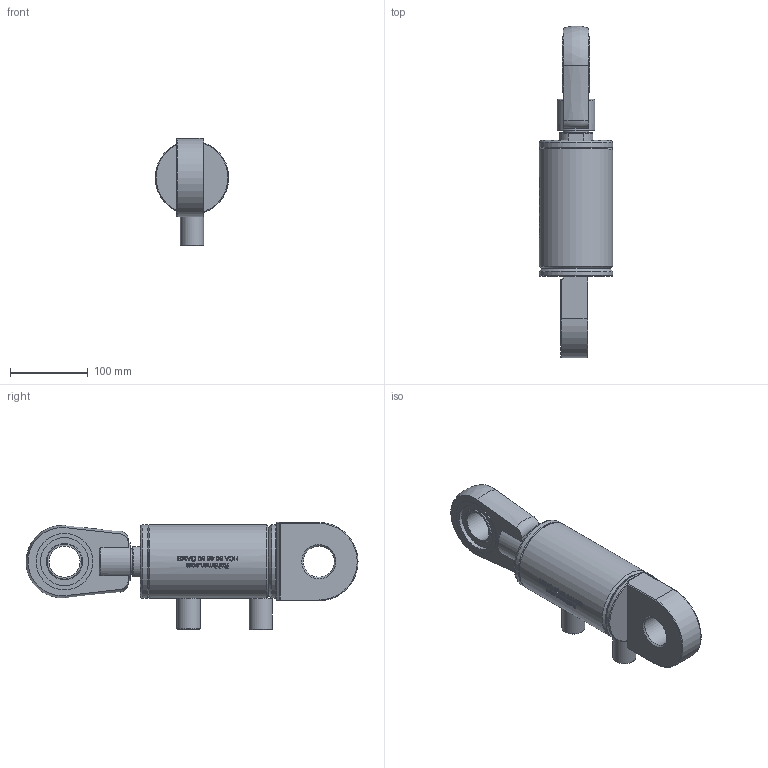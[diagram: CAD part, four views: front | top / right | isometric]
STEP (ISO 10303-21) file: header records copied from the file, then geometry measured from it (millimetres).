
FILE_DESCRIPTION(/* description */ (''),/* implementation_level */ '2;1');
FILE_NAME(/* name */ 'HC_A_80_45_50_AMB_WEB.step',/* time_stamp */ '2023-07-25T14:20:12+03:00',/* author */ (''),/* organization */ (''),/* preprocessor_version */ 'ST-DEVELOPER v20',/* originating_system */ 'Autodesk Translation Framework v12.9.0.99',/* authorisation */ '');
FILE_SCHEMA (('AUTOMOTIVE_DESIGN { 1 0 10303 214 3 1 1 }'));
Length unit declared in the file: millimetre
Products named in the file (16): HC_A_80_45_50_ÖAMB_WEB; Manşon_1_2; RMK_40_101; TAK_80_95; Bileşen1; RMV_40; dgihl_40_do; 45_K_MIL_WEB; Bileşen1_1; HCA_A_80_95_BORU; 80_100_Boru; TDK_80_45; TDK_80_45_1; K06-45X55_6X5_3X7; K22-045_55_10; KO-77X3
Assembly tree (16 placements, depth 3):
  HC_A_80_45_50_ÖAMB_WEB
    Manşon_1_2  x2
    RMK_40_101
    TAK_80_95
      Bileşen1
    RMV_40
      dgihl_40_do
    45_K_MIL_WEB
      Bileşen1_1
    HCA_A_80_95_BORU
      80_100_Boru
    TDK_80_45
      TDK_80_45_1
      K06-45X55_6X5_3X7
      K22-045_55_10
      KO-77X3
Bounding box: 95 x 428.16 x 138 mm (x, y, z)
Volume: 1491010.9 mm3; surface area: 277618.2 mm2
Topology: 11 solids, 11 shells, 730 faces, 1885 edges, 1236 vertices
Faces by surface type: bspline 335, plane 250, cylinder 74, cone 49, torus 13, sphere 9
Full cylindrical faces by diameter (mm): 8.526 x1, 10 x2, 19 x2, 30 x2, 32.822 x1, 33.376 x1, 34.85 x1, 40 x2, 45 x3, 45.571 x1, 46.6 x1, 47.6 x1, 49 x1, 54.429 x1, 55 x2, 55.6 x1, 62 x2, 73 x2, 77 x1, 80 x2, 81 x3, 83 x1, 83.022 x1, 84.822 x1, 87 x1, 95 x3
Entity records: 33351 total; most frequent: CARTESIAN_POINT 17342, ORIENTED_EDGE 3734, DIRECTION 2302, EDGE_CURVE 1867, VERTEX_POINT 1226, LINE 862, VECTOR 862, EDGE_LOOP 807
